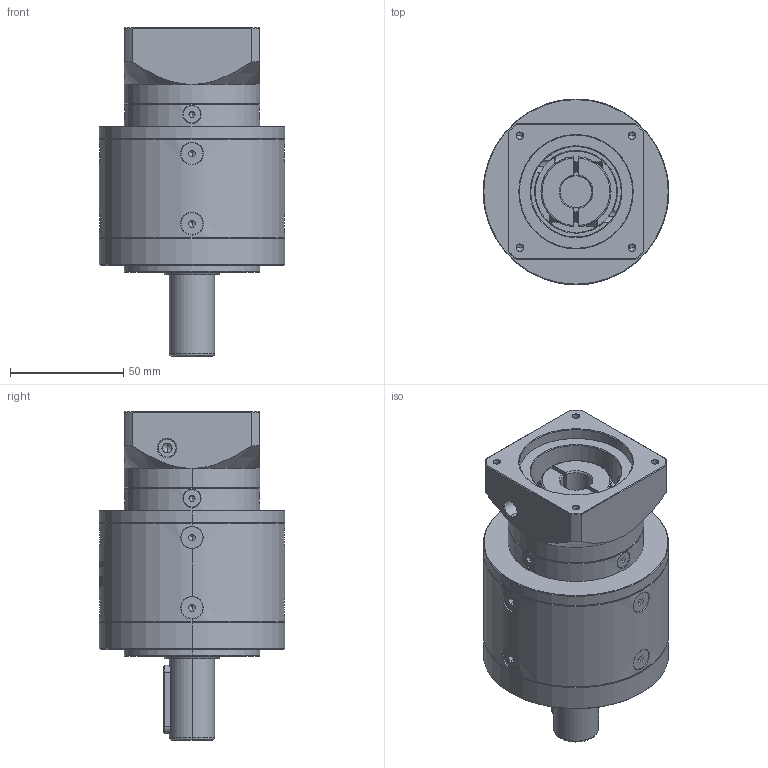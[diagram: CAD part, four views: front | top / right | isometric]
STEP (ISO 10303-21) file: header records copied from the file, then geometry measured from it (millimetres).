
FILE_DESCRIPTION (( 'STEP AP214' ), '1' );
FILE_NAME ('ZE80-D20-L2-14-50-70-M4.step', '2022-05-08T05:59:44', ( '' ), ( 'Microsoft' ), 'SwSTEP 2.0', 'SolidWorks 2016', '' );
FILE_SCHEMA (( 'AUTOMOTIVE_DESIGN' ));
Length unit declared in the file: millimetre
Products named in the file (1): ZE80-D20-L2-14-50-70-M4
Bounding box: 82 x 82 x 145 mm (x, y, z)
Volume: 443385.1 mm3; surface area: 63755.9 mm2
Topology: 18 solids, 18 shells, 1987 faces, 5191 edges, 3295 vertices
Faces by surface type: plane 935, cylinder 397, bspline 328, cone 313, torus 14
Entity records: 106747 total; most frequent: CARTESIAN_POINT 39505, ORIENTED_EDGE 10290, DIRECTION 8212, EDGE_CURVE 5145, VERTEX_POINT 3295, LINE 2810, VECTOR 2810, AXIS2_PLACEMENT_3D 2701
